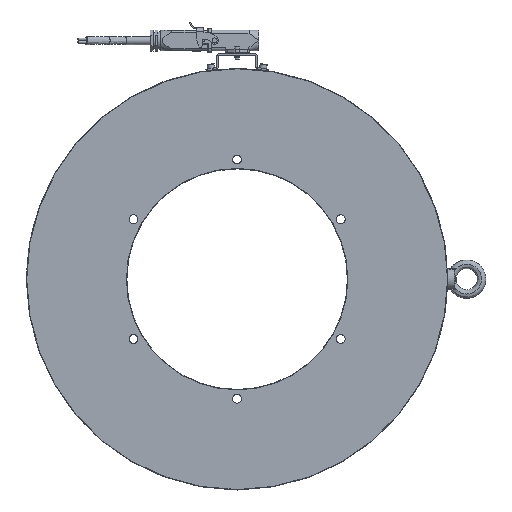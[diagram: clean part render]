
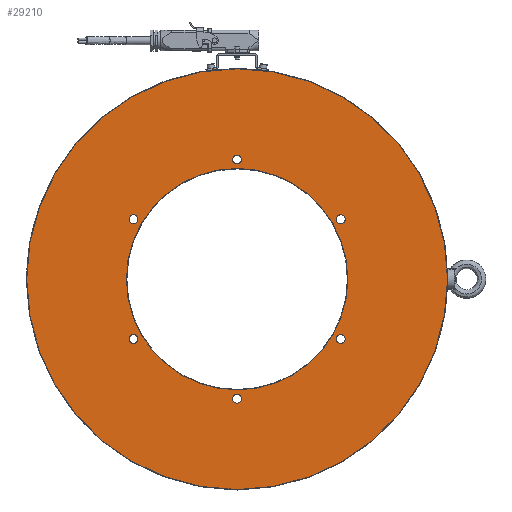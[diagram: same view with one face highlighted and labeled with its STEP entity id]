
A CAD part, left-side view. The second image highlights one B-rep face of the part: STEP entity #29210.
In plain terms, the highlighted planar face has unit normal (-1, 0, 0).
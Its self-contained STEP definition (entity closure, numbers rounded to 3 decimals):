
#5898=FACE_BOUND('',#8921,.T.);
#5899=FACE_BOUND('',#8922,.T.);
#5900=FACE_BOUND('',#8923,.T.);
#5901=FACE_BOUND('',#8924,.T.);
#5902=FACE_BOUND('',#8925,.T.);
#5903=FACE_BOUND('',#8926,.T.);
#5904=FACE_BOUND('',#8927,.T.);
#7232=FACE_OUTER_BOUND('',#8920,.T.);
#8920=EDGE_LOOP('',(#24548,#24549));
#8921=EDGE_LOOP('',(#24550));
#8922=EDGE_LOOP('',(#24551));
#8923=EDGE_LOOP('',(#24552));
#8924=EDGE_LOOP('',(#24553));
#8925=EDGE_LOOP('',(#24554));
#8926=EDGE_LOOP('',(#24555));
#8927=EDGE_LOOP('',(#24556));
#10244=CIRCLE('',#31798,130.5);
#10247=CIRCLE('',#31803,5.25);
#10248=CIRCLE('',#31805,5.25);
#10249=CIRCLE('',#31807,5.25);
#10250=CIRCLE('',#31809,5.25);
#10251=CIRCLE('',#31811,5.25);
#10252=CIRCLE('',#31813,5.25);
#10253=CIRCLE('',#31815,248.);
#10254=CIRCLE('',#31816,248.);
#13025=VERTEX_POINT('',#49543);
#13029=VERTEX_POINT('',#49613);
#13030=VERTEX_POINT('',#49617);
#13031=VERTEX_POINT('',#49621);
#13032=VERTEX_POINT('',#49625);
#13033=VERTEX_POINT('',#49629);
#13034=VERTEX_POINT('',#49633);
#13035=VERTEX_POINT('',#49637);
#13036=VERTEX_POINT('',#49638);
#16902=EDGE_CURVE('',#13025,#13025,#10244,.T.);
#16908=EDGE_CURVE('',#13029,#13029,#10247,.T.);
#16910=EDGE_CURVE('',#13030,#13030,#10248,.T.);
#16912=EDGE_CURVE('',#13031,#13031,#10249,.T.);
#16914=EDGE_CURVE('',#13032,#13032,#10250,.T.);
#16916=EDGE_CURVE('',#13033,#13033,#10251,.T.);
#16918=EDGE_CURVE('',#13034,#13034,#10252,.T.);
#16919=EDGE_CURVE('',#13035,#13036,#10253,.T.);
#16920=EDGE_CURVE('',#13036,#13035,#10254,.T.);
#24548=ORIENTED_EDGE('',*,*,#16919,.T.);
#24549=ORIENTED_EDGE('',*,*,#16920,.T.);
#24550=ORIENTED_EDGE('',*,*,#16918,.T.);
#24551=ORIENTED_EDGE('',*,*,#16916,.T.);
#24552=ORIENTED_EDGE('',*,*,#16914,.T.);
#24553=ORIENTED_EDGE('',*,*,#16912,.T.);
#24554=ORIENTED_EDGE('',*,*,#16910,.T.);
#24555=ORIENTED_EDGE('',*,*,#16908,.T.);
#24556=ORIENTED_EDGE('',*,*,#16902,.F.);
#26411=PLANE('',#31825);
#29210=ADVANCED_FACE('',(#7232,#5898,#5899,#5900,#5901,#5902,#5903,#5904),
#26411,.T.);
#31798=AXIS2_PLACEMENT_3D('',#49545,#39400,#39401);
#31803=AXIS2_PLACEMENT_3D('',#49615,#39412,#39413);
#31805=AXIS2_PLACEMENT_3D('',#49619,#39417,#39418);
#31807=AXIS2_PLACEMENT_3D('',#49623,#39422,#39423);
#31809=AXIS2_PLACEMENT_3D('',#49627,#39427,#39428);
#31811=AXIS2_PLACEMENT_3D('',#49631,#39432,#39433);
#31813=AXIS2_PLACEMENT_3D('',#49635,#39437,#39438);
#31815=AXIS2_PLACEMENT_3D('',#49639,#39441,#39442);
#31816=AXIS2_PLACEMENT_3D('',#49640,#39443,#39444);
#31825=AXIS2_PLACEMENT_3D('',#49659,#39465,#39466);
#39400=DIRECTION('center_axis',(-1.,0.,0.));
#39401=DIRECTION('ref_axis',(0.,-1.,0.));
#39412=DIRECTION('center_axis',(1.,0.,0.));
#39413=DIRECTION('ref_axis',(0.,0.,
-1.));
#39417=DIRECTION('center_axis',(1.,0.,0.));
#39418=DIRECTION('ref_axis',(0.,0.,
-1.));
#39422=DIRECTION('center_axis',(1.,0.,0.));
#39423=DIRECTION('ref_axis',(0.,0.,
-1.));
#39427=DIRECTION('center_axis',(1.,0.,0.));
#39428=DIRECTION('ref_axis',(0.,0.,
-1.));
#39432=DIRECTION('center_axis',(1.,0.,0.));
#39433=DIRECTION('ref_axis',(0.,0.,
-1.));
#39437=DIRECTION('center_axis',(1.,0.,0.));
#39438=DIRECTION('ref_axis',(0.,0.,
-1.));
#39441=DIRECTION('center_axis',(-1.,0.,0.));
#39442=DIRECTION('ref_axis',(0.,1.,0.));
#39443=DIRECTION('center_axis',(-1.,0.,0.));
#39444=DIRECTION('ref_axis',(0.,1.,0.));
#39465=DIRECTION('center_axis',(-1.,0.,0.));
#39466=DIRECTION('ref_axis',(0.,0.,
1.));
#49543=CARTESIAN_POINT('',(-61.926,130.5,0.));
#49545=CARTESIAN_POINT('Origin',(-61.926,0.,
0.));
#49613=CARTESIAN_POINT('',(-61.926,122.11,75.75));
#49615=CARTESIAN_POINT('Origin',(-61.926,122.11,70.5));
#49617=CARTESIAN_POINT('',(-61.926,0.,-135.75));
#49619=CARTESIAN_POINT('Origin',(-61.926,0.,
-141.));
#49621=CARTESIAN_POINT('',(-61.926,-122.11,75.75));
#49623=CARTESIAN_POINT('Origin',(-61.926,-122.11,70.5));
#49625=CARTESIAN_POINT('',(-61.926,0.,146.25));
#49627=CARTESIAN_POINT('Origin',(-61.926,0.,
141.));
#49629=CARTESIAN_POINT('',(-61.926,-122.11,-65.25));
#49631=CARTESIAN_POINT('Origin',(-61.926,-122.11,-70.5));
#49633=CARTESIAN_POINT('',(-61.926,122.11,-65.25));
#49635=CARTESIAN_POINT('Origin',(-61.926,122.11,-70.5));
#49637=CARTESIAN_POINT('',(-61.926,248.,0.));
#49638=CARTESIAN_POINT('',(-61.926,-248.,0.));
#49639=CARTESIAN_POINT('Origin',(-61.926,0.,
0.));
#49640=CARTESIAN_POINT('Origin',(-61.926,0.,
0.));
#49659=CARTESIAN_POINT('Origin',(-61.926,189.,0.));
